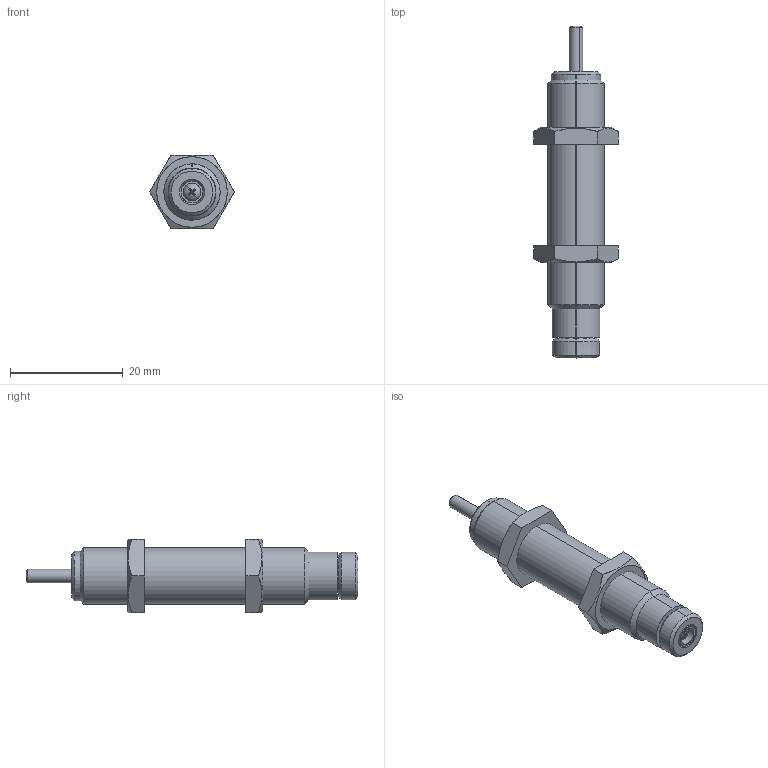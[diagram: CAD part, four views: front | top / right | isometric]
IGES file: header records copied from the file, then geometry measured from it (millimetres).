
Start section: SolidWorks IGES file using analytic representation for surfaces
Bounding box: 15.01 x 58.9 x 13 mm (x, y, z)
Surface area: 2535.8 mm2 (no closed solid volume)
Topology: 0 solids, 0 shells, 91 faces, 1124 edges, 1124 vertices
Faces by surface type: bspline 47, revolution 44
